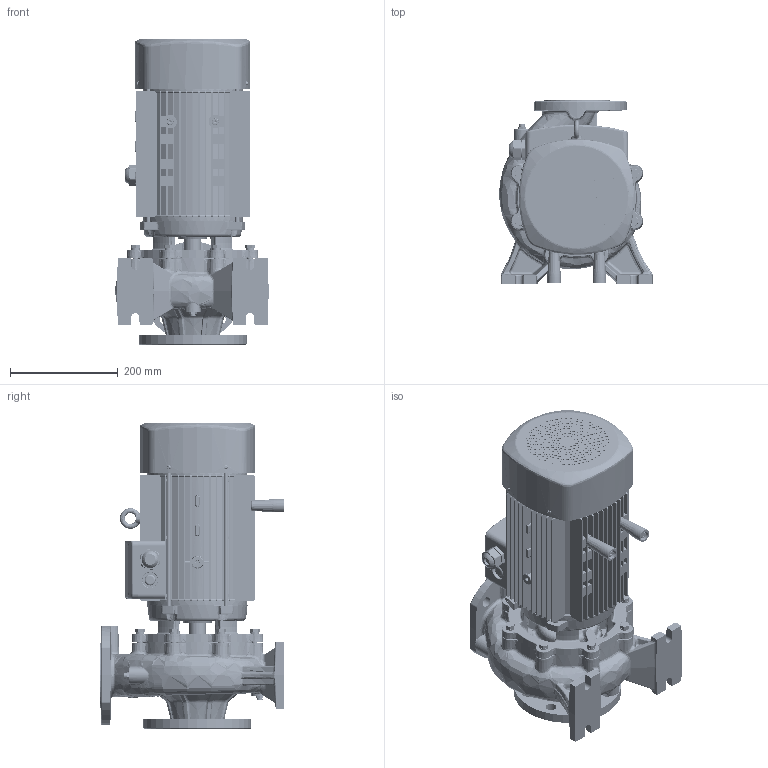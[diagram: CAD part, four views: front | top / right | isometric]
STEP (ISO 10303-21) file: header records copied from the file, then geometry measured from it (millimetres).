
FILE_DESCRIPTION (( 'STEP AP203' ), '1' );
FILE_NAME ('TST65-125-5.5 7.5安装尺寸图.STEP', '2026-04-28T09:23:44', ( '微软用户' ), ( '微软中国' ), 'SwSTEP 2.0', 'SolidWorks 2020', '' );
FILE_SCHEMA (( 'CONFIG_CONTROL_DESIGN' ));
Length unit declared in the file: millimetre
Products named in the file (1): TST65-125-5.5 7.5假蚾喜渡芞
Bounding box: 284.7 x 340.03 x 568.9 mm (x, y, z)
Volume: 19550465.1 mm3; surface area: 1280195.9 mm2
Topology: 23 solids, 24 shells, 4702 faces, 11810 edges, 7406 vertices
Faces by surface type: cylinder 1635, plane 1239, bspline 1053, cone 432, torus 206, sphere 137
Entity records: 248333 total; most frequent: CARTESIAN_POINT 156547, ORIENTED_EDGE 23420, DIRECTION 12259, EDGE_CURVE 11710, B_SPLINE_CURVE_WITH_KNOTS 8322, VERTEX_POINT 7399, AXIS2_PLACEMENT_3D 5522, EDGE_LOOP 5109
